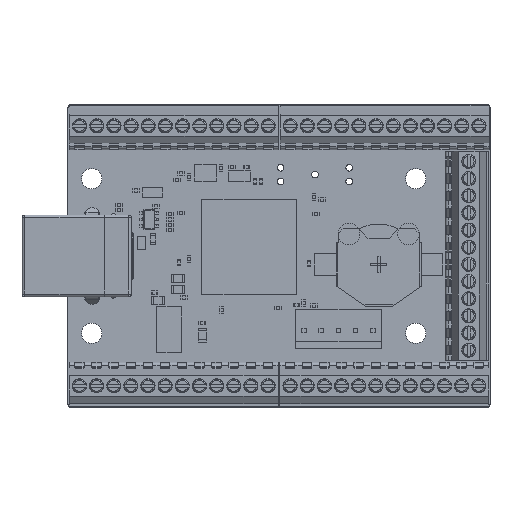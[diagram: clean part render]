
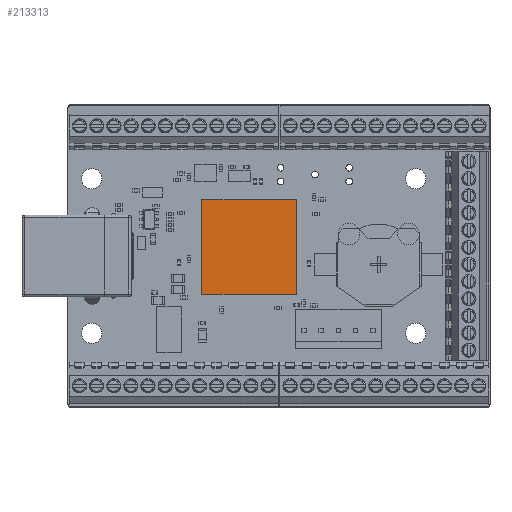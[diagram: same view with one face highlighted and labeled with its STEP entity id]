
A CAD part, top view. The second image highlights one B-rep face of the part: STEP entity #213313.
In plain terms, the highlighted planar face has unit normal (0, 0, 1).
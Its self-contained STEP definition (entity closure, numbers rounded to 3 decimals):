
#212999 = VERTEX_POINT('',#213000);
#213000 = CARTESIAN_POINT('',(-7.,7.,1.55));
#213007 = PLANE('',#213008);
#213008 = AXIS2_PLACEMENT_3D('',#213009,#213010,#213011);
#213009 = CARTESIAN_POINT('',(-7.,7.,0.));
#213010 = DIRECTION('',(0.,1.,0.));
#213011 = DIRECTION('',(1.,0.,0.));
#213019 = PLANE('',#213020);
#213020 = AXIS2_PLACEMENT_3D('',#213021,#213022,#213023);
#213021 = CARTESIAN_POINT('',(-7.,-7.,0.));
#213022 = DIRECTION('',(-1.,0.,0.));
#213023 = DIRECTION('',(0.,1.,0.));
#213031 = EDGE_CURVE('',#212999,#213032,#213034,.T.);
#213032 = VERTEX_POINT('',#213033);
#213033 = CARTESIAN_POINT('',(7.,7.,1.55));
#213034 = SURFACE_CURVE('',#213035,(#213039,#213046),.PCURVE_S1.);
#213035 = LINE('',#213036,#213037);
#213036 = CARTESIAN_POINT('',(-7.,7.,1.55));
#213037 = VECTOR('',#213038,1.);
#213038 = DIRECTION('',(1.,0.,0.));
#213039 = PCURVE('',#213007,#213040);
#213040 = DEFINITIONAL_REPRESENTATION('',(#213041),#213045);
#213041 = LINE('',#213042,#213043);
#213042 = CARTESIAN_POINT('',(0.,-1.55));
#213043 = VECTOR('',#213044,1.);
#213044 = DIRECTION('',(1.,0.));
#213045 = ( GEOMETRIC_REPRESENTATION_CONTEXT(2) 
PARAMETRIC_REPRESENTATION_CONTEXT() REPRESENTATION_CONTEXT('2D SPACE',''
  ) );
#213046 = PCURVE('',#213047,#213052);
#213047 = PLANE('',#213048);
#213048 = AXIS2_PLACEMENT_3D('',#213049,#213050,#213051);
#213049 = CARTESIAN_POINT('',(-7.,7.,1.55));
#213050 = DIRECTION('',(0.,0.,1.));
#213051 = DIRECTION('',(1.,0.,0.));
#213052 = DEFINITIONAL_REPRESENTATION('',(#213053),#213057);
#213053 = LINE('',#213054,#213055);
#213054 = CARTESIAN_POINT('',(0.,0.));
#213055 = VECTOR('',#213056,1.);
#213056 = DIRECTION('',(1.,0.));
#213057 = ( GEOMETRIC_REPRESENTATION_CONTEXT(2) 
PARAMETRIC_REPRESENTATION_CONTEXT() REPRESENTATION_CONTEXT('2D SPACE',''
  ) );
#213075 = PLANE('',#213076);
#213076 = AXIS2_PLACEMENT_3D('',#213077,#213078,#213079);
#213077 = CARTESIAN_POINT('',(7.,7.,0.));
#213078 = DIRECTION('',(1.,0.,0.));
#213079 = DIRECTION('',(0.,-1.,0.));
#213117 = EDGE_CURVE('',#213032,#213118,#213120,.T.);
#213118 = VERTEX_POINT('',#213119);
#213119 = CARTESIAN_POINT('',(7.,-7.,1.55));
#213120 = SURFACE_CURVE('',#213121,(#213125,#213132),.PCURVE_S1.);
#213121 = LINE('',#213122,#213123);
#213122 = CARTESIAN_POINT('',(7.,7.,1.55));
#213123 = VECTOR('',#213124,1.);
#213124 = DIRECTION('',(0.,-1.,0.));
#213125 = PCURVE('',#213075,#213126);
#213126 = DEFINITIONAL_REPRESENTATION('',(#213127),#213131);
#213127 = LINE('',#213128,#213129);
#213128 = CARTESIAN_POINT('',(0.,-1.55));
#213129 = VECTOR('',#213130,1.);
#213130 = DIRECTION('',(1.,0.));
#213131 = ( GEOMETRIC_REPRESENTATION_CONTEXT(2) 
PARAMETRIC_REPRESENTATION_CONTEXT() REPRESENTATION_CONTEXT('2D SPACE',''
  ) );
#213132 = PCURVE('',#213047,#213133);
#213133 = DEFINITIONAL_REPRESENTATION('',(#213134),#213138);
#213134 = LINE('',#213135,#213136);
#213135 = CARTESIAN_POINT('',(14.,0.));
#213136 = VECTOR('',#213137,1.);
#213137 = DIRECTION('',(0.,-1.));
#213138 = ( GEOMETRIC_REPRESENTATION_CONTEXT(2) 
PARAMETRIC_REPRESENTATION_CONTEXT() REPRESENTATION_CONTEXT('2D SPACE',''
  ) );
#213156 = PLANE('',#213157);
#213157 = AXIS2_PLACEMENT_3D('',#213158,#213159,#213160);
#213158 = CARTESIAN_POINT('',(7.,-7.,0.));
#213159 = DIRECTION('',(0.,-1.,0.));
#213160 = DIRECTION('',(-1.,0.,0.));
#213193 = EDGE_CURVE('',#213118,#213194,#213196,.T.);
#213194 = VERTEX_POINT('',#213195);
#213195 = CARTESIAN_POINT('',(-7.,-7.,1.55));
#213196 = SURFACE_CURVE('',#213197,(#213201,#213208),.PCURVE_S1.);
#213197 = LINE('',#213198,#213199);
#213198 = CARTESIAN_POINT('',(7.,-7.,1.55));
#213199 = VECTOR('',#213200,1.);
#213200 = DIRECTION('',(-1.,0.,0.));
#213201 = PCURVE('',#213156,#213202);
#213202 = DEFINITIONAL_REPRESENTATION('',(#213203),#213207);
#213203 = LINE('',#213204,#213205);
#213204 = CARTESIAN_POINT('',(0.,-1.55));
#213205 = VECTOR('',#213206,1.);
#213206 = DIRECTION('',(1.,0.));
#213207 = ( GEOMETRIC_REPRESENTATION_CONTEXT(2) 
PARAMETRIC_REPRESENTATION_CONTEXT() REPRESENTATION_CONTEXT('2D SPACE',''
  ) );
#213208 = PCURVE('',#213047,#213209);
#213209 = DEFINITIONAL_REPRESENTATION('',(#213210),#213214);
#213210 = LINE('',#213211,#213212);
#213211 = CARTESIAN_POINT('',(14.,-14.));
#213212 = VECTOR('',#213213,1.);
#213213 = DIRECTION('',(-1.,0.));
#213214 = ( GEOMETRIC_REPRESENTATION_CONTEXT(2) 
PARAMETRIC_REPRESENTATION_CONTEXT() REPRESENTATION_CONTEXT('2D SPACE',''
  ) );
#213264 = EDGE_CURVE('',#213194,#212999,#213265,.T.);
#213265 = SURFACE_CURVE('',#213266,(#213270,#213277),.PCURVE_S1.);
#213266 = LINE('',#213267,#213268);
#213267 = CARTESIAN_POINT('',(-7.,-7.,1.55));
#213268 = VECTOR('',#213269,1.);
#213269 = DIRECTION('',(0.,1.,0.));
#213270 = PCURVE('',#213019,#213271);
#213271 = DEFINITIONAL_REPRESENTATION('',(#213272),#213276);
#213272 = LINE('',#213273,#213274);
#213273 = CARTESIAN_POINT('',(0.,-1.55));
#213274 = VECTOR('',#213275,1.);
#213275 = DIRECTION('',(1.,0.));
#213276 = ( GEOMETRIC_REPRESENTATION_CONTEXT(2) 
PARAMETRIC_REPRESENTATION_CONTEXT() REPRESENTATION_CONTEXT('2D SPACE',''
  ) );
#213277 = PCURVE('',#213047,#213278);
#213278 = DEFINITIONAL_REPRESENTATION('',(#213279),#213283);
#213279 = LINE('',#213280,#213281);
#213280 = CARTESIAN_POINT('',(0.,-14.));
#213281 = VECTOR('',#213282,1.);
#213282 = DIRECTION('',(0.,1.));
#213283 = ( GEOMETRIC_REPRESENTATION_CONTEXT(2) 
PARAMETRIC_REPRESENTATION_CONTEXT() REPRESENTATION_CONTEXT('2D SPACE',''
  ) );
#213313 = ADVANCED_FACE('',(#213314),#213047,.T.);
#213314 = FACE_BOUND('',#213315,.F.);
#213315 = EDGE_LOOP('',(#213316,#213317,#213318,#213319));
#213316 = ORIENTED_EDGE('',*,*,#213031,.T.);
#213317 = ORIENTED_EDGE('',*,*,#213117,.T.);
#213318 = ORIENTED_EDGE('',*,*,#213193,.T.);
#213319 = ORIENTED_EDGE('',*,*,#213264,.T.);
